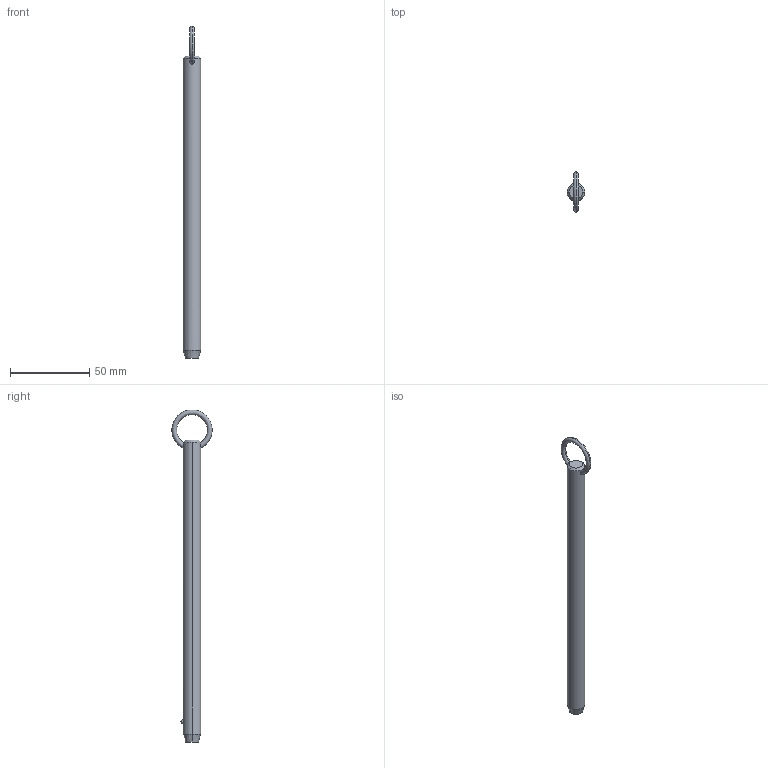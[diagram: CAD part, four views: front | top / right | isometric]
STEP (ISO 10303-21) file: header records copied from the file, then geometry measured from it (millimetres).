
FILE_DESCRIPTION (( 'STEP AP203' ), '1' );
FILE_NAME ('P1250.050-670.step', '2019-07-29T20:42:39', ( '' ), ( '' ), 'SwSTEP 2.0', 'SolidWorks 2017', '' );
FILE_SCHEMA (( 'CONFIG_CONTROL_DESIGN' ));
Length unit declared in the file: millimetre
Products named in the file (1): P1250.050-670
Bounding box: 11.1 x 25.32 x 209.75 mm (x, y, z)
Volume: 18746.2 mm3; surface area: 7306.2 mm2
Topology: 1 solids, 1 shells, 12 faces, 28 edges, 17 vertices
Faces by surface type: cone 4, torus 2, sphere 2, cylinder 2, plane 2
Entity records: 523 total; most frequent: CARTESIAN_POINT 190, DIRECTION 56, ORIENTED_EDGE 48, AXIS2_PLACEMENT_3D 25, EDGE_CURVE 24, VERTEX_POINT 15, EDGE_LOOP 15, CIRCLE 12
